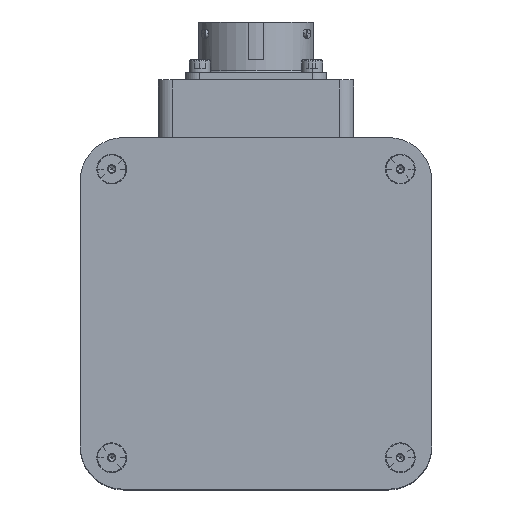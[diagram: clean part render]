
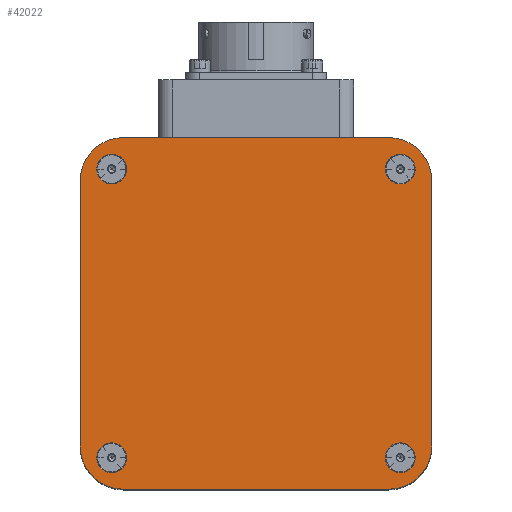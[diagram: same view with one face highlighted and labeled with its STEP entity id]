
A CAD part, top view. The second image highlights one B-rep face of the part: STEP entity #42022.
In plain terms, the highlighted planar face has unit normal (0, 0, 1) as drawn and (0, 0, -1) by its records, which use the part's own axes.
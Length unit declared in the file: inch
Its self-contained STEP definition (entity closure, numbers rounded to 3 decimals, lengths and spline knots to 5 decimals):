
#3494 = VERTEX_POINT ( 'NONE', #32129 ) ;
#3496 = EDGE_CURVE ( 'NONE', #3494, #3497, #32390, .T. ) ;
#3497 = VERTEX_POINT ( 'NONE', #32382 ) ;
#3504 = VERTEX_POINT ( 'NONE', #32246 ) ;
#3506 = EDGE_CURVE ( 'NONE', #3504, #3507, #32241, .T. ) ;
#3507 = VERTEX_POINT ( 'NONE', #32232 ) ;
#3530 = VERTEX_POINT ( 'NONE', #32511 ) ;
#3591 = EDGE_CURVE ( 'NONE', #3530, #3592, #32345, .T. ) ;
#3592 = VERTEX_POINT ( 'NONE', #32336 ) ;
#3614 = VERTEX_POINT ( 'NONE', #32683 ) ;
#3718 = VERTEX_POINT ( 'NONE', #33092 ) ;
#3725 = VERTEX_POINT ( 'NONE', #32801 ) ;
#3731 = EDGE_CURVE ( 'NONE', #3614, #3725, #32799, .T. ) ;
#3737 = EDGE_CURVE ( 'NONE', #3739, #3738, #33071, .T. ) ;
#3738 = VERTEX_POINT ( 'NONE', #33063 ) ;
#3739 = VERTEX_POINT ( 'NONE', #33062 ) ;
#3742 = EDGE_CURVE ( 'NONE', #3908, #3743, #33052, .T. ) ;
#3743 = VERTEX_POINT ( 'NONE', #33044 ) ;
#3755 = EDGE_CURVE ( 'NONE', #3718, #3756, #33192, .T. ) ;
#3756 = VERTEX_POINT ( 'NONE', #33184 ) ;
#3908 = VERTEX_POINT ( 'NONE', #33864 ) ;
#32129 = CARTESIAN_POINT ( 'NONE',  ( 1.379, 1.25, 0. ) ) ;
#32232 = CARTESIAN_POINT ( 'NONE',  ( -1.379, 1.25, 0. ) ) ;
#32234 = DIRECTION ( 'NONE',  ( -1., 0., 0. ) ) ;
#32236 = DIRECTION ( 'NONE',  ( 0., 0., -1. ) ) ;
#32238 = CARTESIAN_POINT ( 'NONE',  ( -1.25, 1.25, 0. ) ) ;
#32240 = AXIS2_PLACEMENT_3D ( 'NONE', #32238, #32236, #32234 ) ;
#32241 = CIRCLE ( 'NONE', #32240, 0.129 ) ;
#32246 = CARTESIAN_POINT ( 'NONE',  ( -1.121, 1.25, 0. ) ) ;
#32336 = CARTESIAN_POINT ( 'NONE',  ( -1.379, -1.25, 0. ) ) ;
#32339 = DIRECTION ( 'NONE',  ( -1., 0., 0. ) ) ;
#32341 = DIRECTION ( 'NONE',  ( 0., 0., -1. ) ) ;
#32344 = AXIS2_PLACEMENT_3D ( 'NONE', #32353, #32341, #32339 ) ;
#32345 = CIRCLE ( 'NONE', #32344, 0.129 ) ;
#32353 = CARTESIAN_POINT ( 'NONE',  ( -1.25, -1.25, 0. ) ) ;
#32382 = CARTESIAN_POINT ( 'NONE',  ( 1.121, 1.25, 0. ) ) ;
#32385 = DIRECTION ( 'NONE',  ( -1., 0., 0. ) ) ;
#32387 = DIRECTION ( 'NONE',  ( 0., 0., -1. ) ) ;
#32388 = CARTESIAN_POINT ( 'NONE',  ( 1.25, 1.25, 0. ) ) ;
#32389 = AXIS2_PLACEMENT_3D ( 'NONE', #32388, #32387, #32385 ) ;
#32390 = CIRCLE ( 'NONE', #32389, 0.129 ) ;
#32511 = CARTESIAN_POINT ( 'NONE',  ( -1.121, -1.25, 0. ) ) ;
#32683 = CARTESIAN_POINT ( 'NONE',  ( -1.148, -1.523, 0. ) ) ;
#32795 = DIRECTION ( 'NONE',  ( 1., 0., 0. ) ) ;
#32796 = VECTOR ( 'NONE', #32795, 39.37008 ) ;
#32798 = CARTESIAN_POINT ( 'NONE',  ( -1.523, -1.523, 0. ) ) ;
#32799 = LINE ( 'NONE', #32798, #32796 ) ;
#32801 = CARTESIAN_POINT ( 'NONE',  ( 1.148, -1.523, 0. ) ) ;
#33044 = CARTESIAN_POINT ( 'NONE',  ( 1.523, 1.148, 0. ) ) ;
#33048 = DIRECTION ( 'NONE',  ( 0., 1., 0. ) ) ;
#33049 = VECTOR ( 'NONE', #33048, 39.37008 ) ;
#33050 = CARTESIAN_POINT ( 'NONE',  ( 1.523, 1.523, 0. ) ) ;
#33052 = LINE ( 'NONE', #33050, #33049 ) ;
#33062 = CARTESIAN_POINT ( 'NONE',  ( -1.523, 1.148, 0. ) ) ;
#33063 = CARTESIAN_POINT ( 'NONE',  ( -1.523, -1.148, 0. ) ) ;
#33066 = DIRECTION ( 'NONE',  ( 0., -1., 0. ) ) ;
#33068 = VECTOR ( 'NONE', #33066, 39.37008 ) ;
#33070 = CARTESIAN_POINT ( 'NONE',  ( -1.523, 1.523, 0. ) ) ;
#33071 = LINE ( 'NONE', #33070, #33068 ) ;
#33092 = CARTESIAN_POINT ( 'NONE',  ( 1.379, -1.25, 0. ) ) ;
#33184 = CARTESIAN_POINT ( 'NONE',  ( 1.121, -1.25, 0. ) ) ;
#33185 = DIRECTION ( 'NONE',  ( -1., 0., 0. ) ) ;
#33187 = DIRECTION ( 'NONE',  ( 0., 0., -1. ) ) ;
#33189 = CARTESIAN_POINT ( 'NONE',  ( 1.25, -1.25, 0. ) ) ;
#33190 = AXIS2_PLACEMENT_3D ( 'NONE', #33189, #33187, #33185 ) ;
#33192 = CIRCLE ( 'NONE', #33190, 0.129 ) ;
#33864 = CARTESIAN_POINT ( 'NONE',  ( 1.523, -1.148, 0. ) ) ;
#41633 = ORIENTED_EDGE ( 'NONE', *, *, #3737, .F. ) ;
#41635 = ORIENTED_EDGE ( 'NONE', *, *, #41636, .T. ) ;
#41636 = EDGE_CURVE ( 'NONE', #3739, #42049, #43870, .T. ) ;
#41638 = ORIENTED_EDGE ( 'NONE', *, *, #41997, .F. ) ;
#41641 = ORIENTED_EDGE ( 'NONE', *, *, #41815, .T. ) ;
#41815 = EDGE_CURVE ( 'NONE', #41821, #3743, #43839, .T. ) ;
#41817 = ORIENTED_EDGE ( 'NONE', *, *, #3742, .F. ) ;
#41819 = ORIENTED_EDGE ( 'NONE', *, *, #41820, .T. ) ;
#41820 = EDGE_CURVE ( 'NONE', #3908, #3725, #44305, .T. ) ;
#41821 = VERTEX_POINT ( 'NONE', #44145 ) ;
#41983 = ORIENTED_EDGE ( 'NONE', *, *, #3755, .F. ) ;
#41984 = EDGE_LOOP ( 'NONE', ( #41985, #42066, #41633, #41635, #41638, #41641, #41817, #41819 ) ) ;
#41985 = ORIENTED_EDGE ( 'NONE', *, *, #3731, .F. ) ;
#41986 = ORIENTED_EDGE ( 'NONE', *, *, #3506, .F. ) ;
#41987 = EDGE_LOOP ( 'NONE', ( #41988, #42020 ) ) ;
#41988 = ORIENTED_EDGE ( 'NONE', *, *, #42019, .F. ) ;
#41997 = EDGE_CURVE ( 'NONE', #41821, #42049, #44276, .T. ) ;
#41998 = EDGE_LOOP ( 'NONE', ( #42023, #42002 ) ) ;
#42002 = ORIENTED_EDGE ( 'NONE', *, *, #3496, .F. ) ;
#42003 = EDGE_LOOP ( 'NONE', ( #42004, #41986 ) ) ;
#42004 = ORIENTED_EDGE ( 'NONE', *, *, #42005, .F. ) ;
#42005 = EDGE_CURVE ( 'NONE', #3507, #3504, #44272, .T. ) ;
#42019 = EDGE_CURVE ( 'NONE', #3592, #3530, #44108, .T. ) ;
#42020 = ORIENTED_EDGE ( 'NONE', *, *, #3591, .F. ) ;
#42021 = EDGE_LOOP ( 'NONE', ( #42025, #41983 ) ) ;
#42022 = ADVANCED_FACE ( 'NONE', ( #44103, #44102, #44101, #44100, #44099 ), #44098, .F. ) ;
#42023 = ORIENTED_EDGE ( 'NONE', *, *, #42036, .F. ) ;
#42025 = ORIENTED_EDGE ( 'NONE', *, *, #42026, .F. ) ;
#42026 = EDGE_CURVE ( 'NONE', #3756, #3718, #44259, .T. ) ;
#42036 = EDGE_CURVE ( 'NONE', #3497, #3494, #44233, .T. ) ;
#42049 = VERTEX_POINT ( 'NONE', #44228 ) ;
#42066 = ORIENTED_EDGE ( 'NONE', *, *, #42067, .T. ) ;
#42067 = EDGE_CURVE ( 'NONE', #3614, #3738, #44199, .T. ) ;
#42912 = CARTESIAN_POINT ( 'NONE',  ( 1.148, 1.148, 0. ) ) ;
#42917 = DIRECTION ( 'NONE',  ( 1., 0., 0. ) ) ;
#42918 = DIRECTION ( 'NONE',  ( 0., 0., -1. ) ) ;
#43838 = AXIS2_PLACEMENT_3D ( 'NONE', #42912, #42918, #42917 ) ;
#43839 = CIRCLE ( 'NONE', #43838, 0.375 ) ;
#43866 = DIRECTION ( 'NONE',  ( 1., 0., 0. ) ) ;
#43867 = DIRECTION ( 'NONE',  ( 0., 0., -1. ) ) ;
#43868 = CARTESIAN_POINT ( 'NONE',  ( -1.148, 1.148, 0. ) ) ;
#43869 = AXIS2_PLACEMENT_3D ( 'NONE', #43868, #43867, #43866 ) ;
#43870 = CIRCLE ( 'NONE', #43869, 0.375 ) ;
#44096 = CARTESIAN_POINT ( 'NONE',  ( -1.523, -1.523, 0. ) ) ;
#44097 = AXIS2_PLACEMENT_3D ( 'NONE', #44096, #44261, #44260 ) ;
#44098 = PLANE ( 'NONE',  #44097 ) ;
#44099 = FACE_OUTER_BOUND ( 'NONE', #41984, .T. ) ;
#44100 = FACE_BOUND ( 'NONE', #42021, .T. ) ;
#44101 = FACE_BOUND ( 'NONE', #41987, .T. ) ;
#44102 = FACE_BOUND ( 'NONE', #42003, .T. ) ;
#44103 = FACE_BOUND ( 'NONE', #41998, .T. ) ;
#44104 = DIRECTION ( 'NONE',  ( -1., 0., 0. ) ) ;
#44105 = DIRECTION ( 'NONE',  ( 0., 0., -1. ) ) ;
#44106 = CARTESIAN_POINT ( 'NONE',  ( -1.25, -1.25, 0. ) ) ;
#44107 = AXIS2_PLACEMENT_3D ( 'NONE', #44106, #44105, #44104 ) ;
#44108 = CIRCLE ( 'NONE', #44107, 0.129 ) ;
#44145 = CARTESIAN_POINT ( 'NONE',  ( 1.148, 1.523, 0. ) ) ;
#44146 = DIRECTION ( 'NONE',  ( 1., 0., 0. ) ) ;
#44195 = DIRECTION ( 'NONE',  ( 1., 0., 0. ) ) ;
#44196 = DIRECTION ( 'NONE',  ( 0., 0., -1. ) ) ;
#44197 = CARTESIAN_POINT ( 'NONE',  ( -1.148, -1.148, 0. ) ) ;
#44198 = AXIS2_PLACEMENT_3D ( 'NONE', #44197, #44196, #44195 ) ;
#44199 = CIRCLE ( 'NONE', #44198, 0.375 ) ;
#44228 = CARTESIAN_POINT ( 'NONE',  ( -1.148, 1.523, 0. ) ) ;
#44229 = DIRECTION ( 'NONE',  ( -1., 0., 0. ) ) ;
#44230 = DIRECTION ( 'NONE',  ( 0., 0., -1. ) ) ;
#44231 = CARTESIAN_POINT ( 'NONE',  ( 1.25, 1.25, 0. ) ) ;
#44232 = AXIS2_PLACEMENT_3D ( 'NONE', #44231, #44230, #44229 ) ;
#44233 = CIRCLE ( 'NONE', #44232, 0.129 ) ;
#44255 = DIRECTION ( 'NONE',  ( -1., 0., 0. ) ) ;
#44256 = DIRECTION ( 'NONE',  ( 0., 0., -1. ) ) ;
#44257 = CARTESIAN_POINT ( 'NONE',  ( 1.25, -1.25, 0. ) ) ;
#44258 = AXIS2_PLACEMENT_3D ( 'NONE', #44257, #44256, #44255 ) ;
#44259 = CIRCLE ( 'NONE', #44258, 0.129 ) ;
#44260 = DIRECTION ( 'NONE',  ( 1., 0., 0. ) ) ;
#44261 = DIRECTION ( 'NONE',  ( 0., 0., 1. ) ) ;
#44268 = DIRECTION ( 'NONE',  ( -1., 0., 0. ) ) ;
#44269 = DIRECTION ( 'NONE',  ( 0., 0., -1. ) ) ;
#44270 = CARTESIAN_POINT ( 'NONE',  ( -1.25, 1.25, 0. ) ) ;
#44271 = AXIS2_PLACEMENT_3D ( 'NONE', #44270, #44269, #44268 ) ;
#44272 = CIRCLE ( 'NONE', #44271, 0.129 ) ;
#44273 = DIRECTION ( 'NONE',  ( -1., 0., 0. ) ) ;
#44274 = VECTOR ( 'NONE', #44273, 39.37008 ) ;
#44275 = CARTESIAN_POINT ( 'NONE',  ( -1.523, 1.523, 0. ) ) ;
#44276 = LINE ( 'NONE', #44275, #44274 ) ;
#44302 = DIRECTION ( 'NONE',  ( 0., 0., -1. ) ) ;
#44303 = CARTESIAN_POINT ( 'NONE',  ( 1.148, -1.148, 0. ) ) ;
#44304 = AXIS2_PLACEMENT_3D ( 'NONE', #44303, #44302, #44146 ) ;
#44305 = CIRCLE ( 'NONE', #44304, 0.375 ) ;
